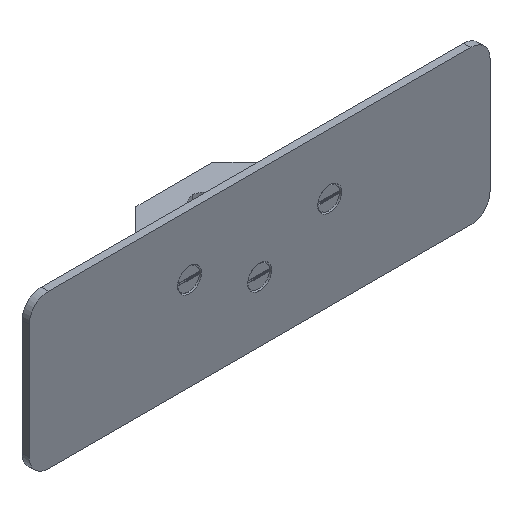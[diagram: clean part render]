
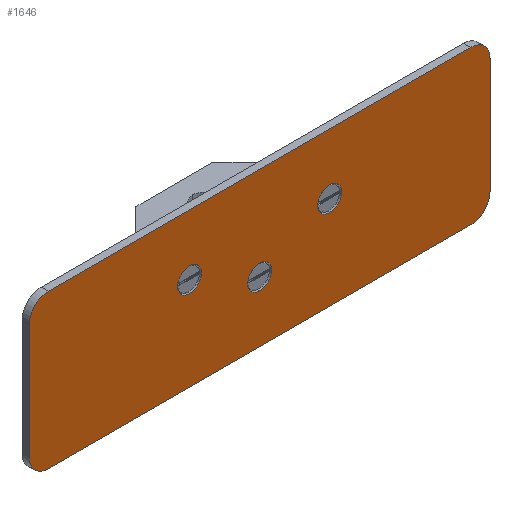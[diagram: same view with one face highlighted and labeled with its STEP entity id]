
A CAD part, isometric view. The second image highlights one B-rep face of the part: STEP entity #1646.
In plain terms, the highlighted planar face has unit normal (0, -1, 0).
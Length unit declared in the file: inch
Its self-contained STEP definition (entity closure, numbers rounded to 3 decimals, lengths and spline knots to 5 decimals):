
#8 = EDGE_CURVE ( 'NONE', #604, #559, #2084, .T. ) ;
#74 = AXIS2_PLACEMENT_3D ( 'NONE', #1067, #3713, #1412 ) ;
#83 = CIRCLE ( 'NONE', #401, 0.3125 ) ;
#91 = VERTEX_POINT ( 'NONE', #2409 ) ;
#139 = EDGE_CURVE ( 'NONE', #557, #3594, #480, .T. ) ;
#149 = CIRCLE ( 'NONE', #3200, 0.3125 ) ;
#233 = FACE_BOUND ( 'NONE', #3077, .T. ) ;
#242 = CARTESIAN_POINT ( 'NONE',  ( 5.5, 0., 1.5 ) ) ;
#254 = DIRECTION ( 'NONE',  ( 0., 0., 1. ) ) ;
#255 = VERTEX_POINT ( 'NONE', #3084 ) ;
#274 = EDGE_CURVE ( 'NONE', #3011, #801, #83, .T. ) ;
#288 = CARTESIAN_POINT ( 'NONE',  ( 0., 0., -0.1125 ) ) ;
#303 = DIRECTION ( 'NONE',  ( 0., -1., 0. ) ) ;
#337 = AXIS2_PLACEMENT_3D ( 'NONE', #1231, #303, #3068 ) ;
#344 = ORIENTED_EDGE ( 'NONE', *, *, #3474, .T. ) ;
#355 = CARTESIAN_POINT ( 'NONE',  ( -1.825, 0., 0.1125 ) ) ;
#389 = EDGE_LOOP ( 'NONE', ( #1518, #3480, #1101, #344, #2678, #533, #1624, #3464 ) ) ;
#401 = AXIS2_PLACEMENT_3D ( 'NONE', #602, #879, #1843 ) ;
#463 = DIRECTION ( 'NONE',  ( 0., -1., 0. ) ) ;
#480 = CIRCLE ( 'NONE', #3719, 0.5 ) ;
#511 = FACE_BOUND ( 'NONE', #1933, .T. ) ;
#533 = ORIENTED_EDGE ( 'NONE', *, *, #2413, .F. ) ;
#540 = CARTESIAN_POINT ( 'NONE',  ( -6., 0., -1.5 ) ) ;
#555 = CARTESIAN_POINT ( 'NONE',  ( 5.5, 0., -2. ) ) ;
#557 = VERTEX_POINT ( 'NONE', #1581 ) ;
#559 = VERTEX_POINT ( 'NONE', #1658 ) ;
#578 = CARTESIAN_POINT ( 'NONE',  ( 5.5, 0., 2. ) ) ;
#579 = VERTEX_POINT ( 'NONE', #1036 ) ;
#580 = VECTOR ( 'NONE', #3066, 39.37008 ) ;
#599 = CARTESIAN_POINT ( 'NONE',  ( 0., 0., -0.425 ) ) ;
#602 = CARTESIAN_POINT ( 'NONE',  ( 0., 0., -0.425 ) ) ;
#604 = VERTEX_POINT ( 'NONE', #355 ) ;
#625 = CARTESIAN_POINT ( 'NONE',  ( 5.5, 0., -2. ) ) ;
#654 = DIRECTION ( 'NONE',  ( 0., 0., 1. ) ) ;
#662 = VERTEX_POINT ( 'NONE', #2335 ) ;
#733 = VERTEX_POINT ( 'NONE', #1695 ) ;
#765 = CARTESIAN_POINT ( 'NONE',  ( 5.5, 0., -1.5 ) ) ;
#783 = PLANE ( 'NONE',  #1371 ) ;
#801 = VERTEX_POINT ( 'NONE', #288 ) ;
#830 = VECTOR ( 'NONE', #2184, 39.37008 ) ;
#859 = EDGE_CURVE ( 'NONE', #1669, #662, #3151, .T. ) ;
#879 = DIRECTION ( 'NONE',  ( 0., -1., 0. ) ) ;
#888 = ORIENTED_EDGE ( 'NONE', *, *, #2614, .F. ) ;
#944 = DIRECTION ( 'NONE',  ( 0., 0., -1. ) ) ;
#1036 = CARTESIAN_POINT ( 'NONE',  ( -6., 0., 1.5 ) ) ;
#1067 = CARTESIAN_POINT ( 'NONE',  ( -1.825, 0., 0.425 ) ) ;
#1091 = DIRECTION ( 'NONE',  ( 0., 0., 1. ) ) ;
#1101 = ORIENTED_EDGE ( 'NONE', *, *, #2421, .T. ) ;
#1115 = AXIS2_PLACEMENT_3D ( 'NONE', #242, #1841, #3007 ) ;
#1178 = VERTEX_POINT ( 'NONE', #555 ) ;
#1231 = CARTESIAN_POINT ( 'NONE',  ( -5.5, 0., 1.5 ) ) ;
#1238 = ORIENTED_EDGE ( 'NONE', *, *, #2474, .F. ) ;
#1275 = CARTESIAN_POINT ( 'NONE',  ( -6., 0., -1.5 ) ) ;
#1371 = AXIS2_PLACEMENT_3D ( 'NONE', #3802, #2330, #1390 ) ;
#1390 = DIRECTION ( 'NONE',  ( 0., 0., 1. ) ) ;
#1412 = DIRECTION ( 'NONE',  ( 0., 0., 1. ) ) ;
#1505 = CIRCLE ( 'NONE', #2643, 0.5 ) ;
#1518 = ORIENTED_EDGE ( 'NONE', *, *, #1657, .T. ) ;
#1550 = LINE ( 'NONE', #2481, #830 ) ;
#1566 = LINE ( 'NONE', #625, #580 ) ;
#1578 = AXIS2_PLACEMENT_3D ( 'NONE', #2411, #2391, #254 ) ;
#1581 = CARTESIAN_POINT ( 'NONE',  ( -5.5, 0., -2. ) ) ;
#1624 = ORIENTED_EDGE ( 'NONE', *, *, #139, .F. ) ;
#1646 = ADVANCED_FACE ( 'NONE', ( #2913, #511, #233, #2074 ), #783, .T. ) ;
#1657 = EDGE_CURVE ( 'NONE', #1178, #2483, #1505, .T. ) ;
#1658 = CARTESIAN_POINT ( 'NONE',  ( -1.825, 0., 0.7375 ) ) ;
#1669 = VERTEX_POINT ( 'NONE', #1987 ) ;
#1695 = CARTESIAN_POINT ( 'NONE',  ( 6., 0., 1.5 ) ) ;
#1699 = AXIS2_PLACEMENT_3D ( 'NONE', #2321, #2023, #3608 ) ;
#1763 = DIRECTION ( 'NONE',  ( 0., 0., 1. ) ) ;
#1774 = EDGE_CURVE ( 'NONE', #91, #579, #3452, .T. ) ;
#1803 = DIRECTION ( 'NONE',  ( -1., 0., 0. ) ) ;
#1805 = DIRECTION ( 'NONE',  ( 0., 0., 1. ) ) ;
#1841 = DIRECTION ( 'NONE',  ( 0., -1., 0. ) ) ;
#1843 = DIRECTION ( 'NONE',  ( 0., 0., 1. ) ) ;
#1933 = EDGE_LOOP ( 'NONE', ( #2758, #2857 ) ) ;
#1987 = CARTESIAN_POINT ( 'NONE',  ( 1.825, 0., 0.1125 ) ) ;
#1998 = CARTESIAN_POINT ( 'NONE',  ( 0., 0., -0.7375 ) ) ;
#2023 = DIRECTION ( 'NONE',  ( 0., -1., 0. ) ) ;
#2074 = FACE_OUTER_BOUND ( 'NONE', #389, .T. ) ;
#2084 = CIRCLE ( 'NONE', #1699, 0.3125 ) ;
#2184 = DIRECTION ( 'NONE',  ( 0., 0., 1. ) ) ;
#2255 = VECTOR ( 'NONE', #1763, 39.37008 ) ;
#2321 = CARTESIAN_POINT ( 'NONE',  ( -1.825, 0., 0.425 ) ) ;
#2330 = DIRECTION ( 'NONE',  ( 0., -1., 0. ) ) ;
#2335 = CARTESIAN_POINT ( 'NONE',  ( 1.825, 0., 0.7375 ) ) ;
#2391 = DIRECTION ( 'NONE',  ( 0., -1., 0. ) ) ;
#2393 = LINE ( 'NONE', #578, #3565 ) ;
#2409 = CARTESIAN_POINT ( 'NONE',  ( -5.5, 0., 2. ) ) ;
#2411 = CARTESIAN_POINT ( 'NONE',  ( 1.825, 0., 0.425 ) ) ;
#2413 = EDGE_CURVE ( 'NONE', #3594, #579, #3262, .T. ) ;
#2421 = EDGE_CURVE ( 'NONE', #733, #255, #2752, .T. ) ;
#2449 = DIRECTION ( 'NONE',  ( 0., 1., 0. ) ) ;
#2474 = EDGE_CURVE ( 'NONE', #662, #1669, #3072, .T. ) ;
#2475 = EDGE_CURVE ( 'NONE', #801, #3011, #149, .T. ) ;
#2476 = DIRECTION ( 'NONE',  ( 0., -1., 0. ) ) ;
#2481 = CARTESIAN_POINT ( 'NONE',  ( 6., 0., -1.5 ) ) ;
#2483 = VERTEX_POINT ( 'NONE', #3041 ) ;
#2614 = EDGE_CURVE ( 'NONE', #559, #604, #3496, .T. ) ;
#2643 = AXIS2_PLACEMENT_3D ( 'NONE', #765, #463, #1091 ) ;
#2678 = ORIENTED_EDGE ( 'NONE', *, *, #1774, .T. ) ;
#2752 = CIRCLE ( 'NONE', #1115, 0.5 ) ;
#2758 = ORIENTED_EDGE ( 'NONE', *, *, #2475, .F. ) ;
#2830 = EDGE_CURVE ( 'NONE', #2483, #733, #1550, .T. ) ;
#2857 = ORIENTED_EDGE ( 'NONE', *, *, #274, .F. ) ;
#2878 = EDGE_CURVE ( 'NONE', #1178, #557, #1566, .T. ) ;
#2913 = FACE_BOUND ( 'NONE', #3584, .T. ) ;
#3007 = DIRECTION ( 'NONE',  ( 0., 0., 1. ) ) ;
#3011 = VERTEX_POINT ( 'NONE', #1998 ) ;
#3041 = CARTESIAN_POINT ( 'NONE',  ( 6., 0., -1.5 ) ) ;
#3066 = DIRECTION ( 'NONE',  ( -1., 0., 0. ) ) ;
#3068 = DIRECTION ( 'NONE',  ( 0., 0., 1. ) ) ;
#3072 = CIRCLE ( 'NONE', #3895, 0.3125 ) ;
#3077 = EDGE_LOOP ( 'NONE', ( #888, #3809 ) ) ;
#3084 = CARTESIAN_POINT ( 'NONE',  ( 5.5, 0., 2. ) ) ;
#3137 = ORIENTED_EDGE ( 'NONE', *, *, #859, .F. ) ;
#3151 = CIRCLE ( 'NONE', #1578, 0.3125 ) ;
#3200 = AXIS2_PLACEMENT_3D ( 'NONE', #599, #3931, #1805 ) ;
#3262 = LINE ( 'NONE', #540, #2255 ) ;
#3452 = CIRCLE ( 'NONE', #337, 0.5 ) ;
#3464 = ORIENTED_EDGE ( 'NONE', *, *, #2878, .F. ) ;
#3474 = EDGE_CURVE ( 'NONE', #255, #91, #2393, .T. ) ;
#3480 = ORIENTED_EDGE ( 'NONE', *, *, #2830, .T. ) ;
#3496 = CIRCLE ( 'NONE', #74, 0.3125 ) ;
#3565 = VECTOR ( 'NONE', #1803, 39.37008 ) ;
#3584 = EDGE_LOOP ( 'NONE', ( #1238, #3137 ) ) ;
#3594 = VERTEX_POINT ( 'NONE', #1275 ) ;
#3608 = DIRECTION ( 'NONE',  ( 0., 0., 1. ) ) ;
#3664 = CARTESIAN_POINT ( 'NONE',  ( -5.5, 0., -1.5 ) ) ;
#3713 = DIRECTION ( 'NONE',  ( 0., -1., 0. ) ) ;
#3719 = AXIS2_PLACEMENT_3D ( 'NONE', #3664, #2449, #944 ) ;
#3802 = CARTESIAN_POINT ( 'NONE',  ( 5.5, 0., -1.5 ) ) ;
#3809 = ORIENTED_EDGE ( 'NONE', *, *, #8, .F. ) ;
#3895 = AXIS2_PLACEMENT_3D ( 'NONE', #3909, #2476, #654 ) ;
#3909 = CARTESIAN_POINT ( 'NONE',  ( 1.825, 0., 0.425 ) ) ;
#3931 = DIRECTION ( 'NONE',  ( 0., -1., 0. ) ) ;
